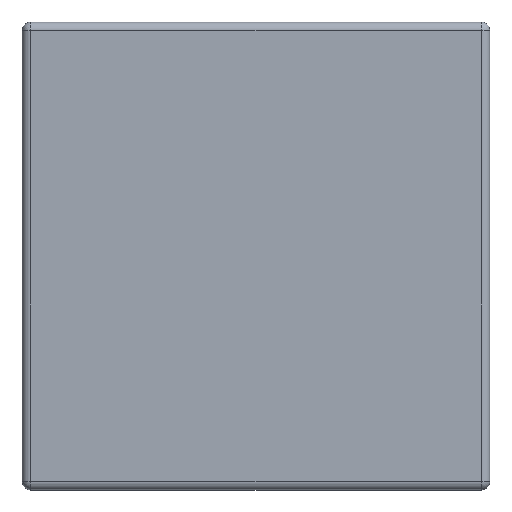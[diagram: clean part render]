
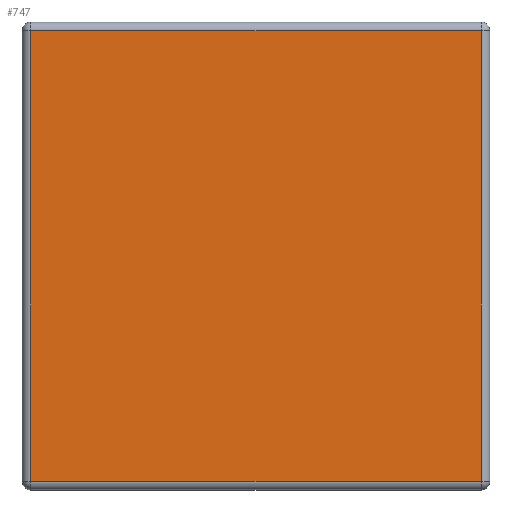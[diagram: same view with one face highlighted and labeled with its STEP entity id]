
A CAD part, top view. The second image highlights one B-rep face of the part: STEP entity #747.
In plain terms, the highlighted planar face has unit normal (0, 0, 1).
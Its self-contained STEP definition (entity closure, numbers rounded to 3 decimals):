
#234=DIRECTION('',(0.,-1.,0.));
#235=VECTOR('',#234,92.5);
#236=CARTESIAN_POINT('',(-46.25,46.25,20.2));
#237=LINE('',#236,#235);
#238=DIRECTION('',(-1.,0.,0.));
#239=VECTOR('',#238,92.5);
#240=CARTESIAN_POINT('',(46.25,46.25,20.2));
#241=LINE('',#240,#239);
#242=DIRECTION('',(0.,1.,0.));
#243=VECTOR('',#242,92.5);
#244=CARTESIAN_POINT('',(46.25,-46.25,20.2));
#245=LINE('',#244,#243);
#246=DIRECTION('',(1.,0.,0.));
#247=VECTOR('',#246,92.5);
#248=CARTESIAN_POINT('',(-46.25,-46.25,20.2));
#249=LINE('',#248,#247);
#293=CARTESIAN_POINT('',(-46.25,46.25,20.2));
#294=CARTESIAN_POINT('',(-46.25,-46.25,20.2));
#295=VERTEX_POINT('',#293);
#296=VERTEX_POINT('',#294);
#301=CARTESIAN_POINT('',(46.25,-46.25,20.2));
#302=VERTEX_POINT('',#301);
#319=CARTESIAN_POINT('',(46.25,46.25,20.2));
#320=VERTEX_POINT('',#319);
#736=CARTESIAN_POINT('',(0.,0.,20.2));
#737=DIRECTION('',(0.,0.,1.));
#738=DIRECTION('',(1.,0.,0.));
#739=AXIS2_PLACEMENT_3D('',#736,#737,#738);
#740=PLANE('',#739);
#741=ORIENTED_EDGE('',*,*,#704,.F.);
#742=ORIENTED_EDGE('',*,*,#727,.F.);
#743=ORIENTED_EDGE('',*,*,#598,.F.);
#744=ORIENTED_EDGE('',*,*,#626,.F.);
#745=EDGE_LOOP('',(#741,#742,#743,#744));
#746=FACE_OUTER_BOUND('',#745,.F.);
#747=ADVANCED_FACE('',(#746),#740,.T.);
#598=EDGE_CURVE('',#302,#320,#245,.T.);
#626=EDGE_CURVE('',#296,#302,#249,.T.);
#704=EDGE_CURVE('',#295,#296,#237,.T.);
#727=EDGE_CURVE('',#320,#295,#241,.T.);
